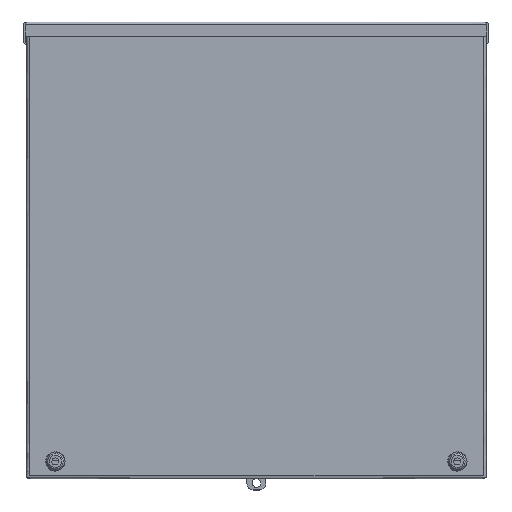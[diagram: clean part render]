
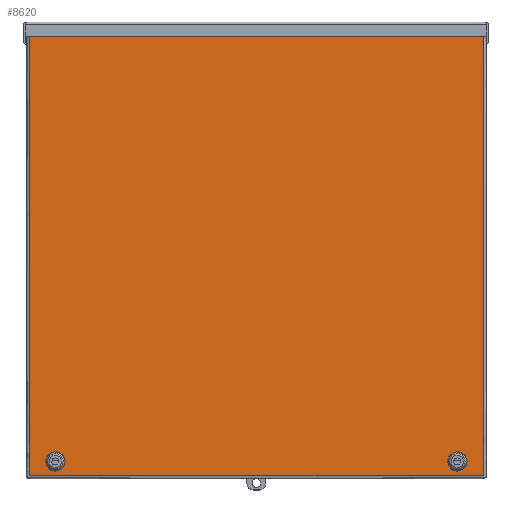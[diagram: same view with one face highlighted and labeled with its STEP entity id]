
A CAD part, top view. The second image highlights one B-rep face of the part: STEP entity #8620.
In plain terms, the highlighted free-form (B-spline) face has degree [1, 1] with [2, 2] control points.
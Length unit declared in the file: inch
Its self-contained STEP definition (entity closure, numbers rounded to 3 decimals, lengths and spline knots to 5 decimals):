
#6698=CARTESIAN_POINT('V78',(1.48018,-0.055,
   17.37));
#6699=VERTEX_POINT('V78',#6698);
#6713=CARTESIAN_POINT('E124',(1.48018,-0.055,
   17.37));
#6714=CARTESIAN_POINT('E124',(1.48018,-0.055,
   16.70285));
#6715=CARTESIAN_POINT('E124',(0.90241,-0.055,
   17.03643));
#6716=CARTESIAN_POINT('E124',(0.32464,-0.055,
   17.37));
#6717=CARTESIAN_POINT('E124',(0.90241,-0.055,
   17.70357));
#6718=CARTESIAN_POINT('E124',(1.48018,-0.055,
   18.03715));
#6719=CARTESIAN_POINT('E124',(1.48018,-0.055,
   17.37));
#6727=(BOUNDED_CURVE()B_SPLINE_CURVE(2,(#6713,#6714,#6715,#6716,
   #6717,#6718,#6719),.CIRCULAR_ARC.,.T.,.U.)
   B_SPLINE_CURVE_WITH_KNOTS((3,2,2,3),(0.0,64.0058,
   128.01159,192.01739),.UNSPECIFIED.)CURVE()
   GEOMETRIC_REPRESENTATION_ITEM()RATIONAL_B_SPLINE_CURVE((1.0,
   0.5,1.0,0.5,1.0,0.5,1.0)
   )REPRESENTATION_ITEM('E124'));
#6728=EDGE_CURVE('E124',#6699,#6699,#6727,.T.);
#7193=CARTESIAN_POINT('V68',(17.48018,-0.055,
   17.37));
#7194=VERTEX_POINT('V68',#7193);
#7208=CARTESIAN_POINT('E107',(17.48018,-0.055,
   17.37));
#7209=CARTESIAN_POINT('E107',(17.48018,-0.055,
   16.70285));
#7210=CARTESIAN_POINT('E107',(16.90241,-0.055,
   17.03643));
#7211=CARTESIAN_POINT('E107',(16.32464,-0.055,
   17.37));
#7212=CARTESIAN_POINT('E107',(16.90241,-0.055,
   17.70357));
#7213=CARTESIAN_POINT('E107',(17.48018,-0.055,
   18.03715));
#7214=CARTESIAN_POINT('E107',(17.48018,-0.055,
   17.37));
#7222=(BOUNDED_CURVE()B_SPLINE_CURVE(2,(#7208,#7209,#7210,#7211,
   #7212,#7213,#7214),.CIRCULAR_ARC.,.T.,.U.)
   B_SPLINE_CURVE_WITH_KNOTS((3,2,2,3),(0.0,64.0058,
   128.01159,192.01739),.UNSPECIFIED.)CURVE()
   GEOMETRIC_REPRESENTATION_ITEM()RATIONAL_B_SPLINE_CURVE((1.0,
   0.5,1.0,0.5,1.0,0.5,1.0)
   )REPRESENTATION_ITEM('E107'));
#7223=EDGE_CURVE('E107',#7194,#7194,#7222,.T.);
#7948=CARTESIAN_POINT('V26',(0.06,-0.055,
   17.945));
#7949=VERTEX_POINT('V26',#7948);
#7986=CARTESIAN_POINT('V39',(0.06,-0.055,
   0.));
#7987=VERTEX_POINT('V39',#7986);
#7988=CARTESIAN_POINT('E89',(0.06,-0.055,
   0.));
#7989=CARTESIAN_POINT('E89',(0.06,-0.055,
   17.945));
#7990=QUASI_UNIFORM_CURVE('E89',1,(#7988,#7989),.POLYLINE_FORM.,.F.,
   .U.);
#7991=EDGE_CURVE('E89',#7987,#7949,#7990,.T.);
#8033=CARTESIAN_POINT('V40',(18.13,-0.055,
   0.));
#8034=VERTEX_POINT('V40',#8033);
#8048=CARTESIAN_POINT('E50',(0.06,-0.055,
   0.0));
#8049=CARTESIAN_POINT('E50',(18.13,-0.055,
   0.0));
#8050=QUASI_UNIFORM_CURVE('E50',1,(#8048,#8049),.POLYLINE_FORM.,.F.,
   .U.);
#8051=EDGE_CURVE('E50',#7987,#8034,#8050,.T.);
#8089=CARTESIAN_POINT('V6',(18.13,-0.055,
   17.945));
#8090=VERTEX_POINT('V6',#8089);
#8134=CARTESIAN_POINT('E90',(18.13,-0.055,
   17.945));
#8135=CARTESIAN_POINT('E90',(18.13,-0.055,
   0.));
#8136=QUASI_UNIFORM_CURVE('E90',1,(#8134,#8135),.POLYLINE_FORM.,.F.,
   .U.);
#8137=EDGE_CURVE('E90',#8090,#8034,#8136,.T.);
#8590=CARTESIAN_POINT('E82',(0.06,-0.055,
   17.945));
#8591=CARTESIAN_POINT('E82',(18.13,-0.055,
   17.945));
#8592=QUASI_UNIFORM_CURVE('E82',1,(#8590,#8591),.POLYLINE_FORM.,.F.,
   .U.);
#8593=EDGE_CURVE('E82',#7949,#8090,#8592,.T.);
#8603=CARTESIAN_POINT('F52',(18.13394,-0.055,
   -0.00394));
#8604=CARTESIAN_POINT('F52',(18.13394,-0.055,
   17.94894));
#8605=CARTESIAN_POINT('F52',(0.05606,-0.055,
   -0.00394));
#8606=CARTESIAN_POINT('F52',(0.05606,-0.055,
   17.94894));
#8607=QUASI_UNIFORM_SURFACE('F52',1,1,((#8603,#8605),(#8604,#8606))
,.PLANE_SURF.,.F.,.F.,.U.);
#8608=ORIENTED_EDGE('E82',*,*,#8593,.F.);
#8609=ORIENTED_EDGE('E89',*,*,#7991,.F.);
#8610=ORIENTED_EDGE('E50',*,*,#8051,.T.);
#8611=ORIENTED_EDGE('E90',*,*,#8137,.F.);
#8612=EDGE_LOOP('F52',(#8608,#8609,#8610,#8611));
#8613=FACE_OUTER_BOUND('F52',#8612,.T.);
#8614=ORIENTED_EDGE('E107',*,*,#7223,.T.);
#8615=EDGE_LOOP('F52',(#8614));
#8616=FACE_BOUND('F52',#8615,.T.);
#8617=ORIENTED_EDGE('E124',*,*,#6728,.T.);
#8618=EDGE_LOOP('F52',(#8617));
#8619=FACE_BOUND('F52',#8618,.T.);
#8620=ADVANCED_FACE('F52',(#8613,#8616,#8619),#8607,.T.);
